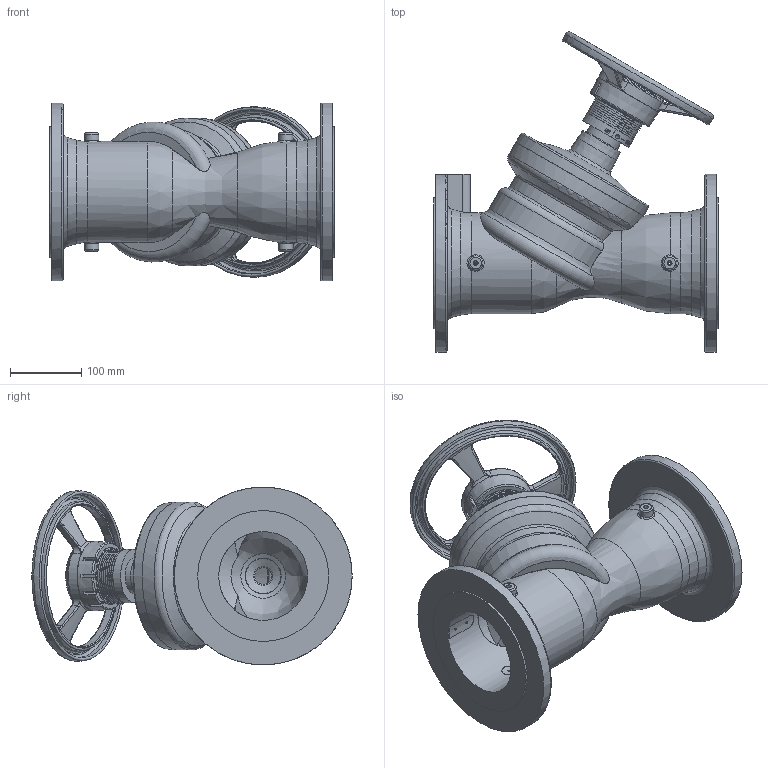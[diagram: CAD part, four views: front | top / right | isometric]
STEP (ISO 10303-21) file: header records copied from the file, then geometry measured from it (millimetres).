
FILE_DESCRIPTION((''),'2;1');
FILE_NAME('P:\Fastrack\53972_CRANE 3D\DM921-941\WORKSPACE\DM921-941\DM921_DN125\DM921_DN125.stp','2011-02-28T09:14:43',('btaylor'),(''),'Autodesk Inventor 2008','Autodesk Inventor 2008','');
FILE_SCHEMA(('AUTOMOTIVE_DESIGN { 1 0 10303 214 1 1 1 1 }'));
Length unit declared in the file: millimetre
Products named in the file (1): DM921_DN125
Bounding box: 400 x 450.07 x 250 mm (x, y, z)
Volume: 191981.6 mm3; surface area: 698472.2 mm2
Topology: 1 solids, 2 shells, 845 faces, 2196 edges, 1400 vertices
Faces by surface type: plane 320, bspline 306, cylinder 131, cone 47, torus 41
Full cylindrical faces by diameter (mm): 6 x2, 20 x6, 21.3 x1, 24 x1, 30 x1, 46 x1, 50 x2, 61 x1, 68 x1, 69 x1, 72 x1, 75 x1, 80 x1, 125 x2, 142 x1, 184 x2, 250 x1
Entity records: 77924 total; most frequent: CARTESIAN_POINT 59117, ORIENTED_EDGE 4090, DIRECTION 2857, EDGE_CURVE 2045, VERTEX_POINT 1355, AXIS2_PLACEMENT_3D 1038, EDGE_LOOP 1018, STYLED_ITEM 846
